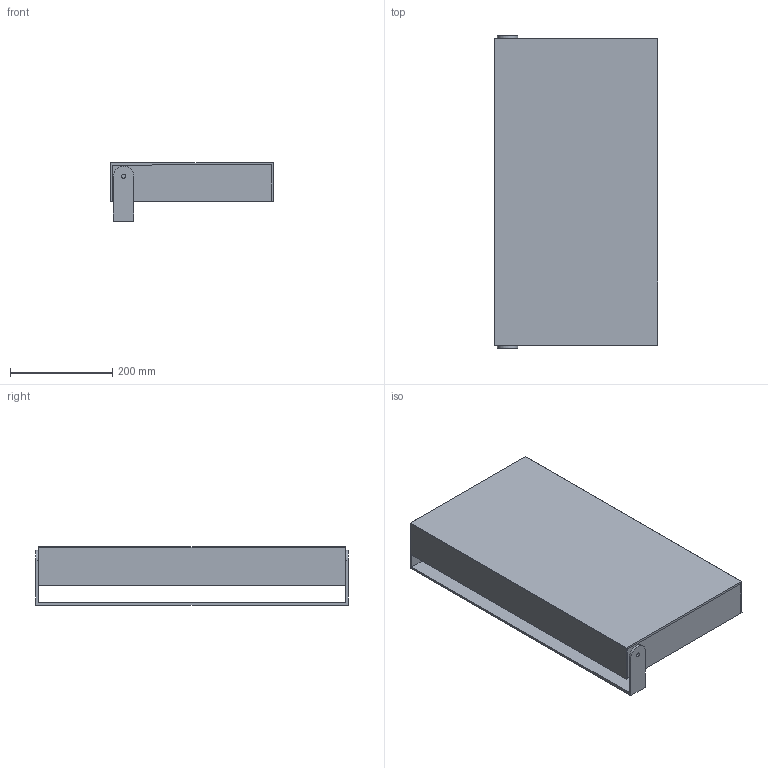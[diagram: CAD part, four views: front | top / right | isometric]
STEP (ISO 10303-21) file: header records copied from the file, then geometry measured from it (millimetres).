
FILE_DESCRIPTION (( 'STEP AP203' ), '1' );
FILE_NAME ('MB 32.STEP', '2019-02-01T14:32:31', ( '' ), ( '' ), 'SwSTEP 2.0', 'SolidWorks 2019', '' );
FILE_SCHEMA (( 'CONFIG_CONTROL_DESIGN' ));
Length unit declared in the file: millimetre
Products named in the file (4): ATTACCO A PARETE; SPECCHIO MIRROR BOOK SINGOLO 32; SCOCCA MIRROR BOOK SINGOLO 32; MB 32
Assembly tree (3 placements, depth 2):
  MB 32
    ATTACCO A PARETE
    SCOCCA MIRROR BOOK SINGOLO 32
    SPECCHIO MIRROR BOOK SINGOLO 32
Bounding box: 320.07 x 612 x 114.29 mm (x, y, z)
Volume: 3281113.5 mm3; surface area: 1373552.4 mm2
Topology: 4 solids, 4 shells, 57 faces, 144 edges, 96 vertices
Faces by surface type: plane 45, cylinder 12
Entity records: 2134 total; most frequent: CARTESIAN_POINT 303, DIRECTION 294, ORIENTED_EDGE 288, EDGE_CURVE 144, VECTOR 120, LINE 120, VERTEX_POINT 96, AXIS2_PLACEMENT_3D 87
